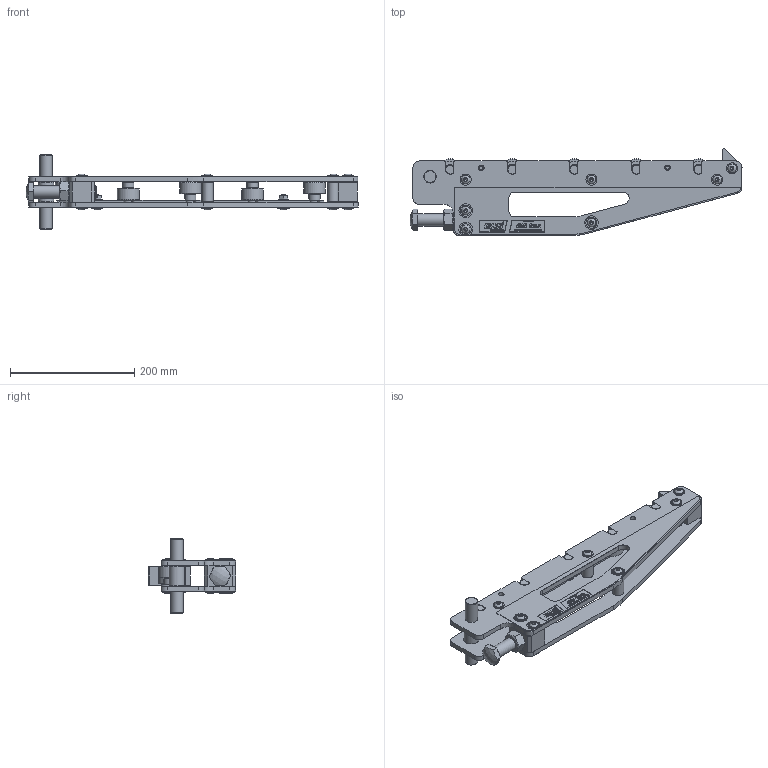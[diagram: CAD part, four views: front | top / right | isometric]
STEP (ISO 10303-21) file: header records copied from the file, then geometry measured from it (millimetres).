
FILE_DESCRIPTION(/* description */ ('CONSOLE PLATE'),/* implementation_level */ '2;1');
FILE_NAME(/* name */ 'C:\Users\jaccow\AppData\Local\Temp\Cadac\NetworkPub\step\FB814-950.iam.stp',/* time_stamp */ '2017-12-14T11:36:48+01:00',/* author */ ('Yue'),/* organization */ (''),/* preprocessor_version */ 'ST-DEVELOPER v16.1',/* originating_system */ 'Autodesk Inventor 2016',/* authorisation */ '');
FILE_SCHEMA (('AUTOMOTIVE_DESIGN { 1 0 10303 214 3 1 1 }'));
Length unit declared in the file: millimetre
Products named in the file (17): FB750-101; FB751-186; FB627-104; DQ1504-281; FB752-101; CCE820-028-9A; FB754-044; CAE1080-1081A; CBB1080-1201D; FB755-104; FB756-104; FB757-690; DQ1509-028; CBE1200-1201D; FB887-026; FB888-026; FB814-950
Assembly tree (45 placements, depth 2):
  FB814-950
    FB750-101  x2
    FB751-186  x4
    FB627-104  x5
    DQ1504-281  x5
    FB752-101
    CCE820-028-9A  x16
    FB754-044
    CAE1080-1081A  x2
    CBB1080-1201D  x2
    FB755-104
    FB756-104
    FB757-690
    DQ1509-028
    CBE1200-1201D
    FB887-026
    FB888-026
Bounding box: 534.78 x 140.17 x 120 mm (x, y, z)
Volume: 1078108.8 mm3; surface area: 426819.4 mm2
Topology: 65 solids, 65 shells, 2922 faces, 7281 edges, 4766 vertices
Faces by surface type: plane 1747, bspline 629, cylinder 272, cone 197, torus 76, sphere 1
Full cylindrical faces by diameter (mm): 1.215 x5, 2.4 x5, 6.647 x9, 8 x16, 8.4 x2, 9 x18, 11.95 x1, 12 x2, 12.1 x1, 15 x10, 17 x2, 17.294 x2, 17.8 x16, 18 x9, 18.6 x5, 20 x5, 22 x4, 23.4 x5, 25 x1, 27.6 x20, 30 x1, 35 x5
Entity records: 73669 total; most frequent: CARTESIAN_POINT 22048, ORIENTED_EDGE 11600, DIRECTION 8186, EDGE_CURVE 5791, LINE 4202, VECTOR 4202, VERTEX_POINT 3892, EDGE_LOOP 2594
